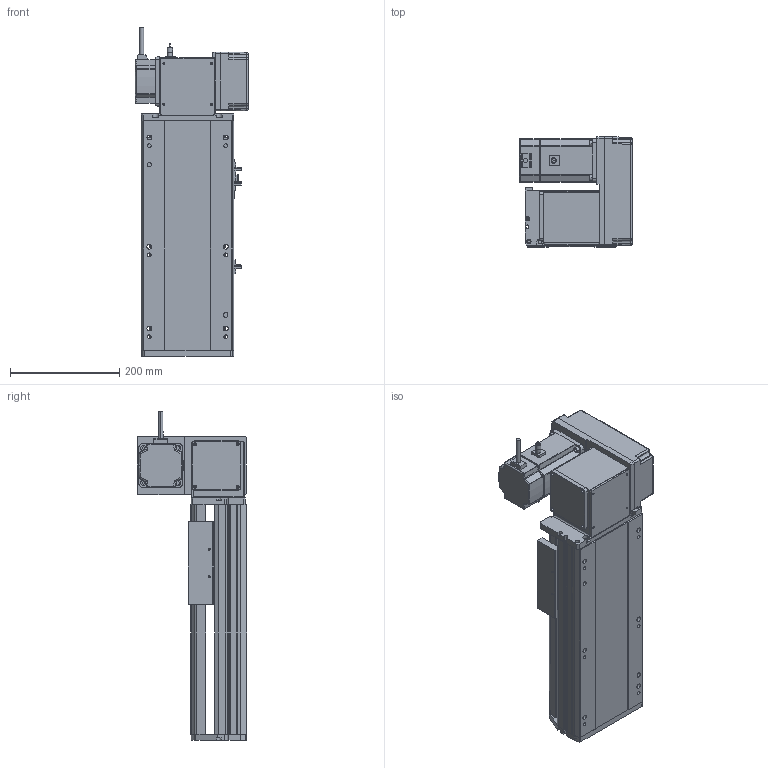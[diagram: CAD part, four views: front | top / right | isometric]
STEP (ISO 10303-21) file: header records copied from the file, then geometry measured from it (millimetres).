
FILE_DESCRIPTION (( 'STEP AP214' ), '1' );
FILE_NAME ('RTB17S-XX-150-RW-M75-C4.STEP', '2025-12-12T02:30:26', ( '' ), ( '' ), 'SwSTEP 2.0', 'SolidWorks 2018', '' );
FILE_SCHEMA (( 'AUTOMOTIVE_DESIGN' ));
Length unit declared in the file: millimetre
Products named in the file (15): RTB17S-XX-150-RW-M75-C4; RTB22S-GY-018P^RTB17S-RW-々湍釱蚾饜-750W_RTB17S-XX-XX-RW-M75-C4; RTB22S-GY-005P^RTB17S-RW-々湍釱蚾饜-750W_RTB17S-XX-XX-RW-M75-C4; EE672^RTB17S-XX-XX-RW-M75-C4; RTB17S-L-004-賑釱^RTB17S-賑釱_RTB17S-XX-XX-RW-M75-C4; RTB17S-L-001-耜醱啣^RTB17S-XX-XX-RW-M75-C4; RTB17-R-011菁釱^RTB17S-XX-XX-RW-M75-C4; RTB17S-RW-々湍釱蚾饜-750W^RTB17S-XX-XX-RW-M75-C4; 750W萇儂^RTB17S-XX-XX-RW-M75-C4; RMP17S-L-014-T20-P75--々湍釱^RTB17S-RW-々湍釱蚾饜-750W_RTB17S-XX-XX-RW-M75-C4; RTB22S-GY-008-M75--萇儂啣^RTB17S-RW-々湍釱蚾饜-750W_RTB17S-XX-XX-RW-M75-C4; RTB22S-GY-017P^RTB17S-RW-々湍釱蚾饜-750W_RTB17S-XX-XX-RW-M75-C4; RTB17S-賑釱^RTB17S-XX-XX-RW-M75-C4; RTB17S-L-007奻裔^RTB17S-XX-XX-RW-M75-C4; RTH13-BL-012覜茼え俋离^RTB17S-賑釱_RTB17S-XX-XX-RW-M75-C4
Assembly tree (17 placements, depth 3):
  RTB17S-XX-150-RW-M75-C4
    RTB17-R-011菁釱^RTB17S-XX-XX-RW-M75-C4
    EE672^RTB17S-XX-XX-RW-M75-C4  x3
    RTB17S-L-001-耜醱啣^RTB17S-XX-XX-RW-M75-C4
    RTB17S-賑釱^RTB17S-XX-XX-RW-M75-C4
      RTB17S-L-004-賑釱^RTB17S-賑釱_RTB17S-XX-XX-RW-M75-C4
      RTH13-BL-012覜茼え俋离^RTB17S-賑釱_RTB17S-XX-XX-RW-M75-C4
    RTB17S-L-007奻裔^RTB17S-XX-XX-RW-M75-C4
    750W萇儂^RTB17S-XX-XX-RW-M75-C4
    RTB17S-RW-々湍釱蚾饜-750W^RTB17S-XX-XX-RW-M75-C4
      RMP17S-L-014-T20-P75--々湍釱^RTB17S-RW-々湍釱蚾饜-750W_RTB17S-XX-XX-RW-M75-C4
      RTB22S-GY-005P^RTB17S-RW-々湍釱蚾饜-750W_RTB17S-XX-XX-RW-M75-C4
      RTB22S-GY-017P^RTB17S-RW-々湍釱蚾饜-750W_RTB17S-XX-XX-RW-M75-C4  x2
      RTB22S-GY-008-M75--萇儂啣^RTB17S-RW-々湍釱蚾饜-750W_RTB17S-XX-XX-RW-M75-C4
      RTB22S-GY-018P^RTB17S-RW-々湍釱蚾饜-750W_RTB17S-XX-XX-RW-M75-C4
Bounding box: 207.4 x 201.5 x 602.2 mm (x, y, z)
Volume: 6887654.1 mm3; surface area: 1026839.2 mm2
Topology: 17 solids, 17 shells, 2025 faces, 5566 edges, 3590 vertices
Faces by surface type: plane 962, cylinder 647, bspline 294, cone 110, sphere 8, torus 4
Entity records: 55030 total; most frequent: CARTESIAN_POINT 16030, ORIENTED_EDGE 7976, DIRECTION 7502, EDGE_CURVE 3988, AXIS2_PLACEMENT_3D 2610, VERTEX_POINT 2594, VECTOR 2282, LINE 2282
